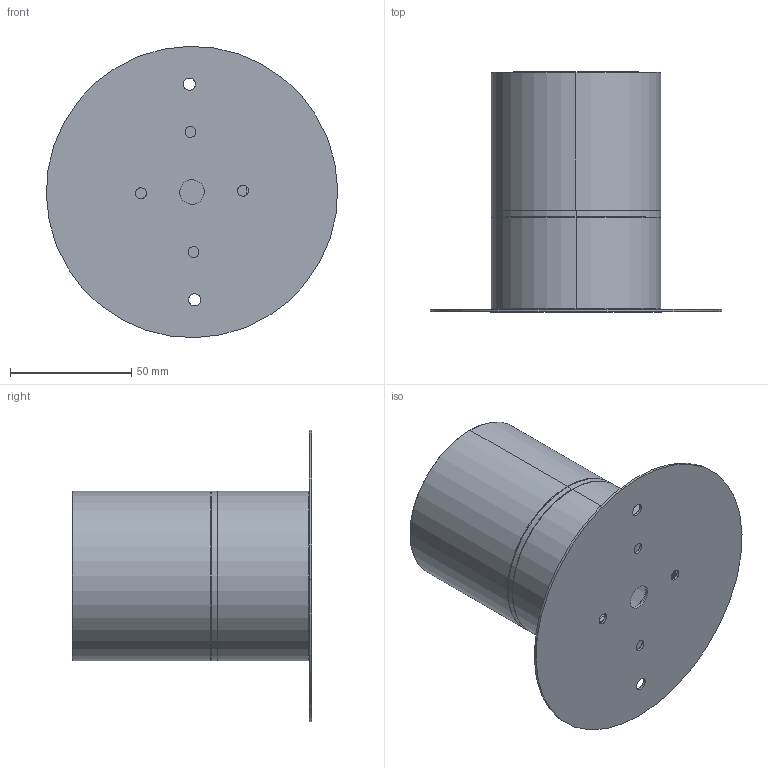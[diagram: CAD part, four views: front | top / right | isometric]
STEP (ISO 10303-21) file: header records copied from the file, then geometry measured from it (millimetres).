
FILE_DESCRIPTION (( 'STEP AP203' ), '1' );
FILE_NAME ('UPPIVO01-USA-PER 3D.STEP', '2024-05-27T09:19:22', ( '' ), ( '' ), 'SwSTEP 2.0', 'SolidWorks 2024', '' );
FILE_SCHEMA (( 'CONFIG_CONTROL_DESIGN' ));
Length unit declared in the file: millimetre
Products named in the file (6): UPPIVO01-USA-PER 3D; WSR1TLL01CRCEW38L2; AXO063-11rev1 - SatHeatsink; AXO063-20 - BaseSingola; WSCM2C0054-0100-00; AXO063-21 - SatConnectorSingola
Assembly tree (5 placements, depth 2):
  UPPIVO01-USA-PER 3D
    AXO063-11rev1 - SatHeatsink
    WSR1TLL01CRCEW38L2
    AXO063-20 - BaseSingola
    AXO063-21 - SatConnectorSingola
    WSCM2C0054-0100-00
Bounding box: 119.96 x 98.7 x 119.96 mm (x, y, z)
Volume: 209250.8 mm3; surface area: 86206 mm2
Topology: 5 solids, 5 shells, 452 faces, 1055 edges, 618 vertices
Faces by surface type: cylinder 345, cone 68, plane 35, bspline 4
Entity records: 14943 total; most frequent: CARTESIAN_POINT 4605, ORIENTED_EDGE 2102, DIRECTION 1915, EDGE_CURVE 1051, AXIS2_PLACEMENT_3D 870, VERTEX_POINT 618, EDGE_LOOP 517, B_SPLINE_CURVE_WITH_KNOTS 460
